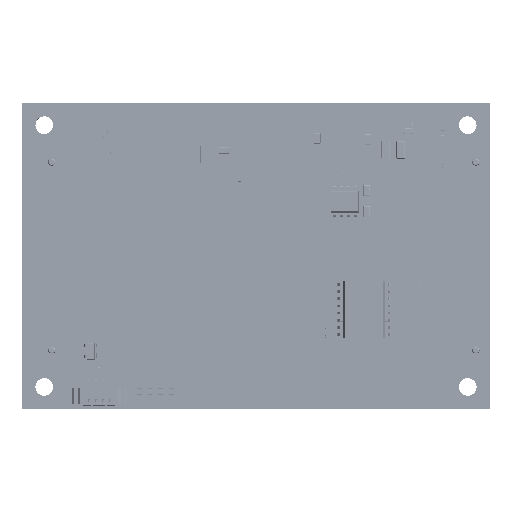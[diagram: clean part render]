
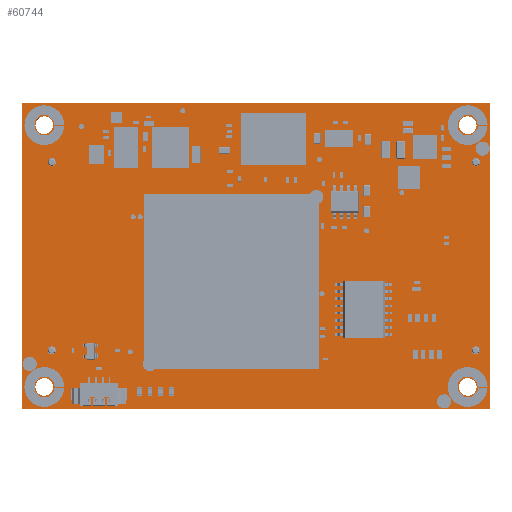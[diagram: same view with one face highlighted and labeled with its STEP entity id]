
A CAD part, top view. The second image highlights one B-rep face of the part: STEP entity #60744.
In plain terms, the highlighted planar face has unit normal (0, 0, 1).
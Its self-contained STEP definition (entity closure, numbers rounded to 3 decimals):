
#22020=CIRCLE($,#50113,0.511);
#22021=CIRCLE($,#50114,0.511);
#22024=CIRCLE($,#50119,1.588);
#22025=CIRCLE($,#50120,1.588);
#22028=CIRCLE($,#50125,1.588);
#22029=CIRCLE($,#50126,1.588);
#22032=CIRCLE($,#50131,1.588);
#22033=CIRCLE($,#50132,1.588);
#22036=CIRCLE($,#50137,1.588);
#22037=CIRCLE($,#50138,1.588);
#22040=CIRCLE($,#50143,0.725);
#22041=CIRCLE($,#50144,0.725);
#22044=CIRCLE($,#50149,0.725);
#22045=CIRCLE($,#50150,0.725);
#22048=CIRCLE($,#50155,0.725);
#22049=CIRCLE($,#50156,0.725);
#22052=CIRCLE($,#50161,0.725);
#22053=CIRCLE($,#50162,0.725);
#40102=FACE_OUTER_BOUND($,#45068,.F.);
#40108=FACE_OUTER_BOUND($,#45074,.T.);
#40112=FACE_OUTER_BOUND($,#45078,.T.);
#40116=FACE_OUTER_BOUND($,#45082,.T.);
#40120=FACE_OUTER_BOUND($,#45086,.T.);
#40124=FACE_OUTER_BOUND($,#45090,.T.);
#40128=FACE_OUTER_BOUND($,#45094,.T.);
#40132=FACE_OUTER_BOUND($,#45098,.T.);
#40136=FACE_OUTER_BOUND($,#45102,.T.);
#40140=FACE_OUTER_BOUND($,#45106,.T.);
#45068=EDGE_LOOP($,(#65687,#65688,#65689,#65690));
#45074=EDGE_LOOP($,(#65711,#65712));
#45078=EDGE_LOOP($,(#65723,#65724));
#45082=EDGE_LOOP($,(#65735,#65736));
#45086=EDGE_LOOP($,(#65747,#65748));
#45090=EDGE_LOOP($,(#65759,#65760));
#45094=EDGE_LOOP($,(#65771,#65772));
#45098=EDGE_LOOP($,(#65783,#65784));
#45102=EDGE_LOOP($,(#65795,#65796));
#45106=EDGE_LOOP($,(#65807,#65808));
#50107=AXIS2_PLACEMENT_3D($,#168582,#144086,$);
#50113=AXIS2_PLACEMENT_3D($,#168594,#144086,$);
#50114=AXIS2_PLACEMENT_3D($,#168595,#144086,$);
#50119=AXIS2_PLACEMENT_3D($,#168606,#144086,$);
#50120=AXIS2_PLACEMENT_3D($,#168607,#144086,$);
#50125=AXIS2_PLACEMENT_3D($,#168618,#144086,$);
#50126=AXIS2_PLACEMENT_3D($,#168619,#144086,$);
#50131=AXIS2_PLACEMENT_3D($,#168630,#144086,$);
#50132=AXIS2_PLACEMENT_3D($,#168631,#144086,$);
#50137=AXIS2_PLACEMENT_3D($,#168642,#144086,$);
#50138=AXIS2_PLACEMENT_3D($,#168643,#144086,$);
#50143=AXIS2_PLACEMENT_3D($,#168654,#144086,$);
#50144=AXIS2_PLACEMENT_3D($,#168655,#144086,$);
#50149=AXIS2_PLACEMENT_3D($,#168666,#144086,$);
#50150=AXIS2_PLACEMENT_3D($,#168667,#144086,$);
#50155=AXIS2_PLACEMENT_3D($,#168678,#144086,$);
#50156=AXIS2_PLACEMENT_3D($,#168679,#144086,$);
#50161=AXIS2_PLACEMENT_3D($,#168690,#144086,$);
#50162=AXIS2_PLACEMENT_3D($,#168691,#144086,$);
#56647=PLANE($,#50107);
#60744=ADVANCED_FACE($,(#40102,#40108,#40112,#40116,#40120,#40124,#40128,
#40132,#40136,#40140),#56647,.T.);
#65687=ORIENTED_EDGE($,*,*,#93107,.T.);
#65688=ORIENTED_EDGE($,*,*,#93108,.T.);
#65689=ORIENTED_EDGE($,*,*,#93109,.T.);
#65690=ORIENTED_EDGE($,*,*,#93110,.T.);
#65711=ORIENTED_EDGE($,*,*,#93120,.T.);
#65712=ORIENTED_EDGE($,*,*,#93121,.T.);
#65723=ORIENTED_EDGE($,*,*,#93127,.T.);
#65724=ORIENTED_EDGE($,*,*,#93128,.T.);
#65735=ORIENTED_EDGE($,*,*,#93134,.T.);
#65736=ORIENTED_EDGE($,*,*,#93135,.T.);
#65747=ORIENTED_EDGE($,*,*,#93141,.T.);
#65748=ORIENTED_EDGE($,*,*,#93142,.T.);
#65759=ORIENTED_EDGE($,*,*,#93148,.T.);
#65760=ORIENTED_EDGE($,*,*,#93149,.T.);
#65771=ORIENTED_EDGE($,*,*,#93155,.T.);
#65772=ORIENTED_EDGE($,*,*,#93156,.T.);
#65783=ORIENTED_EDGE($,*,*,#93162,.T.);
#65784=ORIENTED_EDGE($,*,*,#93163,.T.);
#65795=ORIENTED_EDGE($,*,*,#93169,.T.);
#65796=ORIENTED_EDGE($,*,*,#93170,.T.);
#65807=ORIENTED_EDGE($,*,*,#93176,.T.);
#65808=ORIENTED_EDGE($,*,*,#93177,.T.);
#93107=EDGE_CURVE($,#132351,#132352,#119952,.T.);
#93108=EDGE_CURVE($,#132352,#132353,#119953,.T.);
#93109=EDGE_CURVE($,#132353,#132354,#119954,.T.);
#93110=EDGE_CURVE($,#132354,#132351,#119955,.T.);
#93120=EDGE_CURVE($,#132361,#132362,#22020,.F.);
#93121=EDGE_CURVE($,#132362,#132361,#22021,.F.);
#93127=EDGE_CURVE($,#132367,#132368,#22024,.F.);
#93128=EDGE_CURVE($,#132368,#132367,#22025,.F.);
#93134=EDGE_CURVE($,#132373,#132374,#22028,.F.);
#93135=EDGE_CURVE($,#132374,#132373,#22029,.F.);
#93141=EDGE_CURVE($,#132379,#132380,#22032,.F.);
#93142=EDGE_CURVE($,#132380,#132379,#22033,.F.);
#93148=EDGE_CURVE($,#132385,#132386,#22036,.F.);
#93149=EDGE_CURVE($,#132386,#132385,#22037,.F.);
#93155=EDGE_CURVE($,#132391,#132392,#22040,.F.);
#93156=EDGE_CURVE($,#132392,#132391,#22041,.F.);
#93162=EDGE_CURVE($,#132397,#132398,#22044,.F.);
#93163=EDGE_CURVE($,#132398,#132397,#22045,.F.);
#93169=EDGE_CURVE($,#132403,#132404,#22048,.F.);
#93170=EDGE_CURVE($,#132404,#132403,#22049,.F.);
#93176=EDGE_CURVE($,#132409,#132410,#22052,.F.);
#93177=EDGE_CURVE($,#132410,#132409,#22053,.F.);
#107537=VECTOR($,#144089,84.);
#107538=VECTOR($,#144090,54.991);
#107539=VECTOR($,#144091,84.);
#107540=VECTOR($,#144092,54.991);
#119952=LINE($,#168581,#107537);
#119953=LINE($,#168582,#107538);
#119954=LINE($,#168583,#107539);
#119955=LINE($,#168584,#107540);
#132351=VERTEX_POINT($,#168581);
#132352=VERTEX_POINT($,#168582);
#132353=VERTEX_POINT($,#168583);
#132354=VERTEX_POINT($,#168584);
#132361=VERTEX_POINT($,#168591);
#132362=VERTEX_POINT($,#168592);
#132367=VERTEX_POINT($,#168603);
#132368=VERTEX_POINT($,#168604);
#132373=VERTEX_POINT($,#168615);
#132374=VERTEX_POINT($,#168616);
#132379=VERTEX_POINT($,#168627);
#132380=VERTEX_POINT($,#168628);
#132385=VERTEX_POINT($,#168639);
#132386=VERTEX_POINT($,#168640);
#132391=VERTEX_POINT($,#168651);
#132392=VERTEX_POINT($,#168652);
#132397=VERTEX_POINT($,#168663);
#132398=VERTEX_POINT($,#168664);
#132403=VERTEX_POINT($,#168675);
#132404=VERTEX_POINT($,#168676);
#132409=VERTEX_POINT($,#168687);
#132410=VERTEX_POINT($,#168688);
#144086=DIRECTION($,(0.,0.,1.));
#144089=DIRECTION($,(1.,0.,0.));
#144090=DIRECTION($,(0.,-1.,0.));
#144091=DIRECTION($,(-1.,0.,0.));
#144092=DIRECTION($,(0.,1.,0.));
#168581=CARTESIAN_POINT('',(0.,54.991,0.));
#168582=CARTESIAN_POINT('',(84.,54.991,0.));
#168583=CARTESIAN_POINT('',(84.,0.,0.));
#168584=CARTESIAN_POINT('',(0.,0.,0.));
#168591=CARTESIAN_POINT('',(17.529,52.324,0.));
#168592=CARTESIAN_POINT('',(16.507,52.324,0.));
#168594=CARTESIAN_POINT('',(17.018,52.324,0.));
#168595=CARTESIAN_POINT('',(17.018,52.324,0.));
#168603=CARTESIAN_POINT('',(81.587,50.991,0.));
#168604=CARTESIAN_POINT('',(78.412,50.991,0.));
#168606=CARTESIAN_POINT('',(80.,50.991,0.));
#168607=CARTESIAN_POINT('',(80.,50.991,0.));
#168615=CARTESIAN_POINT('',(5.588,50.991,0.));
#168616=CARTESIAN_POINT('',(2.413,50.991,0.));
#168618=CARTESIAN_POINT('',(4.001,50.991,0.));
#168619=CARTESIAN_POINT('',(4.001,50.991,0.));
#168627=CARTESIAN_POINT('',(81.587,4.001,0.));
#168628=CARTESIAN_POINT('',(78.412,4.001,0.));
#168630=CARTESIAN_POINT('',(80.,4.001,0.));
#168631=CARTESIAN_POINT('',(80.,4.001,0.));
#168639=CARTESIAN_POINT('',(5.588,4.001,0.));
#168640=CARTESIAN_POINT('',(2.413,4.001,0.));
#168642=CARTESIAN_POINT('',(4.001,4.001,0.));
#168643=CARTESIAN_POINT('',(4.001,4.001,0.));
#168651=CARTESIAN_POINT('',(6.064,10.569,0.));
#168652=CARTESIAN_POINT('',(4.614,10.569,0.));
#168654=CARTESIAN_POINT('',(5.339,10.569,0.));
#168655=CARTESIAN_POINT('',(5.339,10.569,0.));
#168663=CARTESIAN_POINT('',(6.064,44.371,0.));
#168664=CARTESIAN_POINT('',(4.614,44.371,0.));
#168666=CARTESIAN_POINT('',(5.339,44.371,0.));
#168667=CARTESIAN_POINT('',(5.339,44.371,0.));
#168675=CARTESIAN_POINT('',(82.186,10.569,0.));
#168676=CARTESIAN_POINT('',(80.735,10.569,0.));
#168678=CARTESIAN_POINT('',(81.46,10.569,0.));
#168679=CARTESIAN_POINT('',(81.46,10.569,0.));
#168687=CARTESIAN_POINT('',(82.186,44.371,0.));
#168688=CARTESIAN_POINT('',(80.735,44.371,0.));
#168690=CARTESIAN_POINT('',(81.46,44.371,0.));
#168691=CARTESIAN_POINT('',(81.46,44.371,0.));
